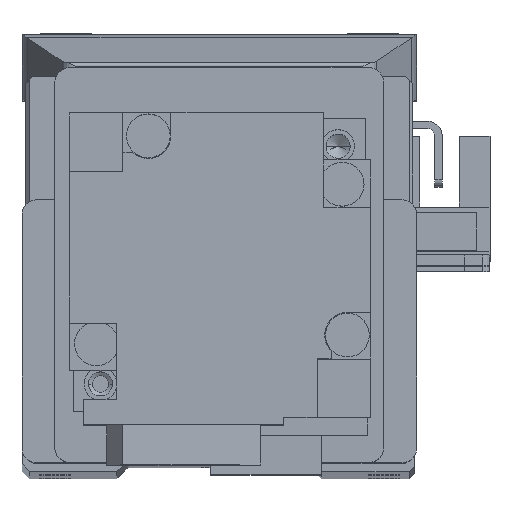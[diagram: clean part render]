
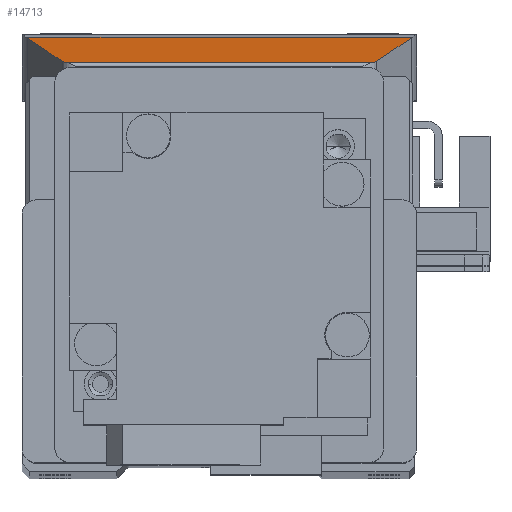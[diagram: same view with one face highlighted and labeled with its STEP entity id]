
A CAD part, top view. The second image highlights one B-rep face of the part: STEP entity #14713.
In plain terms, the highlighted planar face has unit normal (0, 0.966, 0.258).
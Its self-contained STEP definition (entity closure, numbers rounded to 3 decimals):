
#1227 = CARTESIAN_POINT ( 'NONE',  ( 26.285, 49.723, 44.788 ) ) ;
#1617 = ORIENTED_EDGE ( 'NONE', *, *, #35351, .T. ) ;
#2038 = VECTOR ( 'NONE', #28112, 1000. ) ;
#2429 = CARTESIAN_POINT ( 'NONE',  ( 21.909, 46.806, 55.728 ) ) ;
#2665 = DIRECTION ( 'NONE',  ( 0., -0.966, -0.258 ) ) ;
#2913 = PLANE ( 'NONE',  #36564 ) ;
#3345 = DIRECTION ( 'NONE',  ( 0.361, -0.24, 0.901 ) ) ;
#3554 = EDGE_LOOP ( 'NONE', ( #23285, #29590, #20402, #6299, #7696, #1617, #25697, #33262 ) ) ;
#3721 = CARTESIAN_POINT ( 'NONE',  ( 26.285, 49.723, 44.788 ) ) ;
#5235 = EDGE_CURVE ( 'NONE', #30679, #7391, #24631, .T. ) ;
#5371 = CARTESIAN_POINT ( 'NONE',  ( -26.354, 49.769, 44.616 ) ) ;
#5509 = EDGE_CURVE ( 'NONE', #11344, #30679, #36313, .T. ) ;
#6103 = CARTESIAN_POINT ( 'NONE',  ( -26.285, 49.723, 44.788 ) ) ;
#6299 = ORIENTED_EDGE ( 'NONE', *, *, #18163, .T. ) ;
#6621 = CARTESIAN_POINT ( 'NONE',  ( -20.806, 46.299, 57.629 ) ) ;
#6897 = VERTEX_POINT ( 'NONE', #35276 ) ;
#7375 = EDGE_CURVE ( 'NONE', #28656, #9024, #19423, .T. ) ;
#7391 = VERTEX_POINT ( 'NONE', #32141 ) ;
#7529 = CARTESIAN_POINT ( 'NONE',  ( -21.503, 46.535, 56.743 ) ) ;
#7696 = ORIENTED_EDGE ( 'NONE', *, *, #7375, .T. ) ;
#7913 = CARTESIAN_POINT ( 'NONE',  ( -21.36, 46.44, 57.101 ) ) ;
#7977 =( BOUNDED_CURVE ( )  B_SPLINE_CURVE ( 3, ( #16736, #19645, #8405, #34048 ),
 .UNSPECIFIED., .F., .T. ) 
 B_SPLINE_CURVE_WITH_KNOTS ( ( 4, 4 ),
 ( 3.761, 4.332 ),
 .UNSPECIFIED. ) 
 CURVE ( )  GEOMETRIC_REPRESENTATION_ITEM ( )  RATIONAL_B_SPLINE_CURVE ( ( 1., 0.973, 0.973, 1. ) ) 
 REPRESENTATION_ITEM ( '' )  );
#8405 = CARTESIAN_POINT ( 'NONE',  ( 21.36, 46.44, 57.101 ) ) ;
#8744 = CARTESIAN_POINT ( 'NONE',  ( -14.891, 42.127, 73.273 ) ) ;
#9024 = VERTEX_POINT ( 'NONE', #28740 ) ;
#9178 = FACE_OUTER_BOUND ( 'NONE', #3554, .T. ) ;
#10624 = LINE ( 'NONE', #36883, #2038 ) ;
#10840 = CARTESIAN_POINT ( 'NONE',  ( -21.121, 46.359, 57.405 ) ) ;
#11071 = CARTESIAN_POINT ( 'NONE',  ( 27., 49.862, 44.266 ) ) ;
#11344 = VERTEX_POINT ( 'NONE', #1227 ) ;
#11730 = DIRECTION ( 'NONE',  ( 0., 0.258, -0.966 ) ) ;
#12193 = CARTESIAN_POINT ( 'NONE',  ( 26.418, 49.815, 44.442 ) ) ;
#13722 = CARTESIAN_POINT ( 'NONE',  ( -20.806, 46.299, 57.629 ) ) ;
#14140 = DIRECTION ( 'NONE',  ( 0.361, 0.24, -0.901 ) ) ;
#14713 = ADVANCED_FACE ( 'NONE', ( #9178 ), #2913, .F. ) ;
#15327 = CARTESIAN_POINT ( 'NONE',  ( 26.354, 49.769, 44.616 ) ) ;
#15710 = LINE ( 'NONE', #2429, #17041 ) ;
#16736 = CARTESIAN_POINT ( 'NONE',  ( 20.806, 46.299, 57.629 ) ) ;
#17041 = VECTOR ( 'NONE', #14140, 1000. ) ;
#17349 = CARTESIAN_POINT ( 'NONE',  ( 26.477, 49.862, 44.266 ) ) ;
#18057 = VECTOR ( 'NONE', #3345, 1000. ) ;
#18163 = EDGE_CURVE ( 'NONE', #7391, #28656, #25021, .T. ) ;
#18581 = VERTEX_POINT ( 'NONE', #37234 ) ;
#19423 = LINE ( 'NONE', #8744, #18057 ) ;
#19645 = CARTESIAN_POINT ( 'NONE',  ( 21.121, 46.359, 57.405 ) ) ;
#19996 = DIRECTION ( 'NONE',  ( -1., 0., 0. ) ) ;
#20402 = ORIENTED_EDGE ( 'NONE', *, *, #5235, .T. ) ;
#22254 =( BOUNDED_CURVE ( )  B_SPLINE_CURVE ( 3, ( #7529, #7913, #10840, #13722 ),
 .UNSPECIFIED., .F., .F. ) 
 B_SPLINE_CURVE_WITH_KNOTS ( ( 4, 4 ),
 ( 1.951, 2.523 ),
 .UNSPECIFIED. ) 
 CURVE ( )  GEOMETRIC_REPRESENTATION_ITEM ( )  RATIONAL_B_SPLINE_CURVE ( ( 1., 0.973, 0.973, 1. ) ) 
 REPRESENTATION_ITEM ( '' )  );
#22530 = EDGE_CURVE ( 'NONE', #6897, #18581, #7977, .T. ) ;
#22598 = CARTESIAN_POINT ( 'NONE',  ( -26.418, 49.815, 44.442 ) ) ;
#23285 = ORIENTED_EDGE ( 'NONE', *, *, #34848, .T. ) ;
#24631 = LINE ( 'NONE', #11071, #34047 ) ;
#25021 =( BOUNDED_CURVE ( )  B_SPLINE_CURVE ( 3, ( #31514, #22598, #5371, #6103 ),
 .UNSPECIFIED., .F., .T. ) 
 B_SPLINE_CURVE_WITH_KNOTS ( ( 4, 4 ),
 ( 1.896, 1.951 ),
 .UNSPECIFIED. ) 
 CURVE ( )  GEOMETRIC_REPRESENTATION_ITEM ( )  RATIONAL_B_SPLINE_CURVE ( ( 1., 1., 1., 1. ) ) 
 REPRESENTATION_ITEM ( '' )  );
#25697 = ORIENTED_EDGE ( 'NONE', *, *, #28237, .F. ) ;
#26045 = CARTESIAN_POINT ( 'NONE',  ( 27., 46.299, 57.629 ) ) ;
#28112 = DIRECTION ( 'NONE',  ( -1., 0., 0. ) ) ;
#28237 = EDGE_CURVE ( 'NONE', #6897, #31241, #10624, .T. ) ;
#28656 = VERTEX_POINT ( 'NONE', #36045 ) ;
#28740 = CARTESIAN_POINT ( 'NONE',  ( -21.503, 46.535, 56.743 ) ) ;
#29590 = ORIENTED_EDGE ( 'NONE', *, *, #5509, .T. ) ;
#29755 = CARTESIAN_POINT ( 'NONE',  ( 26.477, 49.862, 44.266 ) ) ;
#30679 = VERTEX_POINT ( 'NONE', #17349 ) ;
#31241 = VERTEX_POINT ( 'NONE', #6621 ) ;
#31514 = CARTESIAN_POINT ( 'NONE',  ( -26.477, 49.862, 44.266 ) ) ;
#32141 = CARTESIAN_POINT ( 'NONE',  ( -26.477, 49.862, 44.266 ) ) ;
#33262 = ORIENTED_EDGE ( 'NONE', *, *, #22530, .T. ) ;
#34047 = VECTOR ( 'NONE', #19996, 1000. ) ;
#34048 = CARTESIAN_POINT ( 'NONE',  ( 21.503, 46.535, 56.743 ) ) ;
#34848 = EDGE_CURVE ( 'NONE', #18581, #11344, #15710, .T. ) ;
#35276 = CARTESIAN_POINT ( 'NONE',  ( 20.806, 46.299, 57.629 ) ) ;
#35351 = EDGE_CURVE ( 'NONE', #9024, #31241, #22254, .T. ) ;
#36045 = CARTESIAN_POINT ( 'NONE',  ( -26.285, 49.723, 44.788 ) ) ;
#36313 =( BOUNDED_CURVE ( )  B_SPLINE_CURVE ( 3, ( #3721, #15327, #12193, #29755 ),
 .UNSPECIFIED., .F., .T. ) 
 B_SPLINE_CURVE_WITH_KNOTS ( ( 4, 4 ),
 ( 4.332, 4.388 ),
 .UNSPECIFIED. ) 
 CURVE ( )  GEOMETRIC_REPRESENTATION_ITEM ( )  RATIONAL_B_SPLINE_CURVE ( ( 1., 1., 1., 1. ) ) 
 REPRESENTATION_ITEM ( '' )  );
#36564 = AXIS2_PLACEMENT_3D ( 'NONE', #26045, #2665, #11730 ) ;
#36883 = CARTESIAN_POINT ( 'NONE',  ( 27., 46.299, 57.629 ) ) ;
#37234 = CARTESIAN_POINT ( 'NONE',  ( 21.503, 46.535, 56.743 ) ) ;
